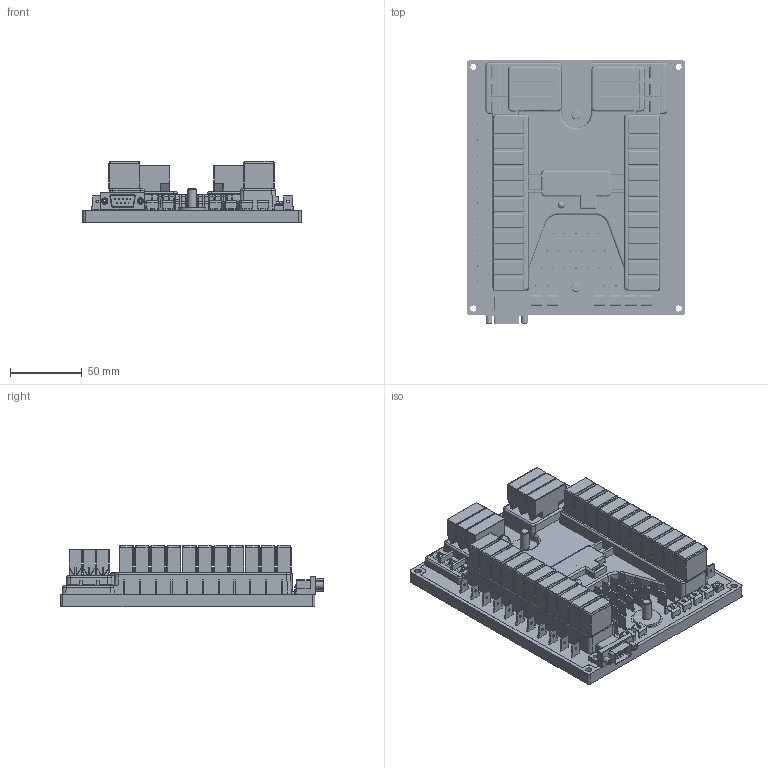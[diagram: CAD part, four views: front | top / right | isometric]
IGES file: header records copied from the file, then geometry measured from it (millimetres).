
Global section: file name: No Iges File Name specified; native system: AutoDesk Inventor R6.0; preprocessor: AutoDesk Inventor Iges Exporter R6.0; author: No Author specified; organization: No Organization specified; date: 20051231.074010; units: inch
Bounding box: 152.4 x 183.96 x 43 mm (x, y, z)
Surface area: 271769.8 mm2 (no closed solid volume)
Topology: 0 solids, 0 shells, 4965 faces, 25790 edges, 25444 vertices
Faces by surface type: plane 2992, revolution 1463, bspline 510
